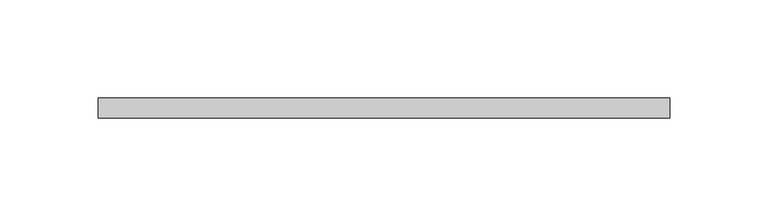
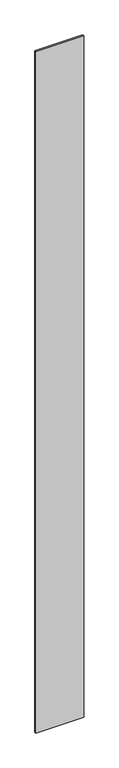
"""IFC4 building model written with IfcOpenShell, lengths in millimetres: plate geometry, システム パネル : 標準."""

from ifc_helpers import new_model, si_unit, origin, origin_with_axes, place, context, project, spatial, polyline, outline, extrude, source, transform, mapped, element, save


def plate_e174b267(model_context):
    return source(origin(), model_context, "Body", "SweptSolid", [
        extrude(outline(polyline([(145.0, -5.0), (-145.0, -5.0), (-145.0, 5.0), (145.0, 5.0), (145.0, -5.0)])), origin_with_axes(), (0.0, 0.0, 1.0), 4360.0),
    ])


if __name__ == "__main__":
    model = new_model("IFC4")
    model_context = context("Model", 3, world=origin())
    ifc_project = project(units=[si_unit("LENGTHUNIT", "METRE", prefix="MILLI")], contexts=[model_context])
    site = spatial("IfcSite", under=ifc_project)
    building = spatial("IfcBuilding", under=site)
    placement = place(None, origin())
    plate_shape = plate_e174b267(model_context)
    element("IfcPlate", 1, ObjectType="システム パネル : 標準", at=placement, inside=building, context=model_context, shape_type="MappedRepresentation", body=[
        mapped(plate_shape, transform((0.0, 0.0, 0.0), x_axis=(1.0, 0.0, 0.0), y_axis=(0.0, 1.0, 0.0), z_axis=(0.0, 0.0, 1.0))),
    ])
    save(model, "model.ifc")
